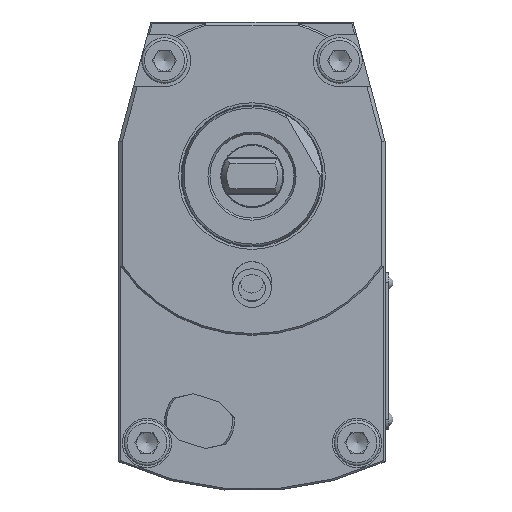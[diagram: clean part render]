
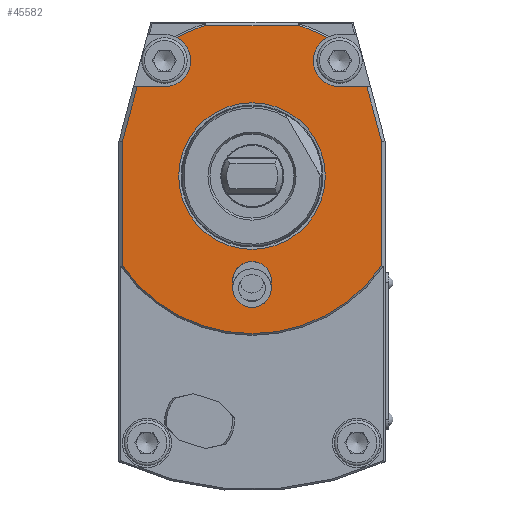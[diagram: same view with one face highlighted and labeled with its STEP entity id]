
A CAD part, left-side view. The second image highlights one B-rep face of the part: STEP entity #45582.
In plain terms, the highlighted planar face has unit normal (-1, 0, 0).
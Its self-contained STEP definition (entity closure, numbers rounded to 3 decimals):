
#19593=PLANE('',#44284);
#20015=CIRCLE('',#44283,45.);
#20016=CIRCLE('',#44285,7.5);
#20017=CIRCLE('',#44286,45.);
#20018=CIRCLE('',#44287,45.);
#20019=CIRCLE('',#44288,7.5);
#20020=CIRCLE('',#44289,20.94);
#20021=CIRCLE('',#44290,5.55);
#20022=CIRCLE('',#44291,5.55);
#20023=CIRCLE('',#44292,5.505);
#20520=ORIENTED_EDGE('',*,*,#26625,.F.);
#20521=ORIENTED_EDGE('',*,*,#26626,.F.);
#20522=ORIENTED_EDGE('',*,*,#26627,.F.);
#20523=ORIENTED_EDGE('',*,*,#26628,.F.);
#20524=ORIENTED_EDGE('',*,*,#26629,.F.);
#20525=ORIENTED_EDGE('',*,*,#26630,.F.);
#20526=ORIENTED_EDGE('',*,*,#26631,.F.);
#20527=ORIENTED_EDGE('',*,*,#26632,.F.);
#20528=ORIENTED_EDGE('',*,*,#26622,.F.);
#20529=ORIENTED_EDGE('',*,*,#26624,.F.);
#20530=ORIENTED_EDGE('',*,*,#26583,.F.);
#20531=ORIENTED_EDGE('',*,*,#26633,.F.);
#20532=ORIENTED_EDGE('',*,*,#26634,.F.);
#20533=ORIENTED_EDGE('',*,*,#26635,.F.);
#20534=ORIENTED_EDGE('',*,*,#26636,.F.);
#20535=ORIENTED_EDGE('',*,*,#26637,.F.);
#23685=VECTOR('',#29979,1.);
#23712=VECTOR('',#30050,1.);
#23714=VECTOR('',#30058,1.);
#23715=VECTOR('',#30063,1.);
#23716=VECTOR('',#30068,1.);
#23717=VECTOR('',#30069,1.);
#23718=VECTOR('',#30070,1.);
#24570=LINE('',#33152,#23685);
#24597=LINE('',#33229,#23712);
#24599=LINE('',#33236,#23714);
#24600=LINE('',#33242,#23715);
#24601=LINE('',#33248,#23716);
#24602=LINE('',#33249,#23717);
#24603=LINE('',#33250,#23718);
#25460=VERTEX_POINT('',#33149);
#25461=VERTEX_POINT('',#33151);
#25488=VERTEX_POINT('',#33226);
#25489=VERTEX_POINT('',#33228);
#25490=VERTEX_POINT('',#33234);
#25491=VERTEX_POINT('',#33235);
#25492=VERTEX_POINT('',#33237);
#25493=VERTEX_POINT('',#33239);
#25494=VERTEX_POINT('',#33241);
#25495=VERTEX_POINT('',#33243);
#25496=VERTEX_POINT('',#33245);
#25497=VERTEX_POINT('',#33247);
#25498=VERTEX_POINT('',#33251);
#25499=VERTEX_POINT('',#33253);
#25500=VERTEX_POINT('',#33254);
#25501=VERTEX_POINT('',#33256);
#26583=EDGE_CURVE('',#25460,#25461,#24570,.T.);
#26622=EDGE_CURVE('',#25488,#25489,#24597,.T.);
#26624=EDGE_CURVE('',#25461,#25488,#20015,.T.);
#26625=EDGE_CURVE('',#25490,#25491,#24599,.T.);
#26626=EDGE_CURVE('',#25492,#25490,#20016,.T.);
#26627=EDGE_CURVE('',#25493,#25492,#20017,.T.);
#26628=EDGE_CURVE('',#25494,#25493,#24600,.T.);
#26629=EDGE_CURVE('',#25495,#25494,#20018,.T.);
#26630=EDGE_CURVE('',#25496,#25495,#20019,.T.);
#26631=EDGE_CURVE('',#25497,#25496,#24601,.T.);
#26632=EDGE_CURVE('',#25489,#25497,#24602,.T.);
#26633=EDGE_CURVE('',#25491,#25460,#24603,.T.);
#26634=EDGE_CURVE('',#25498,#25498,#20020,.T.);
#26635=EDGE_CURVE('',#25499,#25500,#20021,.T.);
#26636=EDGE_CURVE('',#25501,#25499,#20022,.T.);
#26637=EDGE_CURVE('',#25500,#25501,#20023,.T.);
#28205=EDGE_LOOP('',(#20520,#20521,#20522,#20523,#20524,#20525,#20526,#20527,
#20528,#20529,#20530,#20531));
#28206=EDGE_LOOP('',(#20532));
#28207=EDGE_LOOP('',(#20533,#20534,#20535));
#29077=FACE_BOUND('',#28205,.T.);
#29078=FACE_BOUND('',#28206,.T.);
#29079=FACE_BOUND('',#28207,.T.);
#29979=DIRECTION('',(0.,0.,-35.481));
#30050=DIRECTION('',(0.,0.,35.481));
#30054=DIRECTION('',(1.,0.,0.));
#30055=DIRECTION('',(0.,-38.,-24.104));
#30056=DIRECTION('',(-1.,0.,0.));
#30057=DIRECTION('',(0.,1.,0.));
#30058=DIRECTION('',(0.,-7.812,0.));
#30059=DIRECTION('',(-1.,0.,0.));
#30060=DIRECTION('',(0.,7.5,0.));
#30061=DIRECTION('',(1.,0.,0.));
#30062=DIRECTION('',(0.,-9.434,44.));
#30063=DIRECTION('',(0.,-26.533,0.));
#30064=DIRECTION('',(1.,0.,0.));
#30065=DIRECTION('',(0.,26.757,36.181));
#30066=DIRECTION('',(-1.,0.,0.));
#30067=DIRECTION('',(0.,7.5,0.));
#30068=DIRECTION('',(0.,-7.812,0.));
#30069=DIRECTION('',(0.,-4.188,15.632));
#30070=DIRECTION('',(0.,-4.188,-15.632));
#30071=DIRECTION('',(-1.,0.,0.));
#30072=DIRECTION('',(0.,0.,20.94));
#30073=DIRECTION('',(-1.,0.,0.));
#30074=DIRECTION('',(0.,0.,5.55));
#30075=DIRECTION('',(-1.,0.,0.));
#30076=DIRECTION('',(0.,0.,5.55));
#30077=DIRECTION('',(-1.,0.,0.));
#30078=DIRECTION('',(0.,1.65,-5.252));
#33149=CARTESIAN_POINT('',(0.,-37.,9.868));
#33151=CARTESIAN_POINT('',(0.,-37.,-25.612));
#33152=CARTESIAN_POINT('',(0.,-37.,9.868));
#33226=CARTESIAN_POINT('',(0.,37.,-25.612));
#33228=CARTESIAN_POINT('',(0.,37.,9.868));
#33229=CARTESIAN_POINT('',(0.,37.,-25.612));
#33232=CARTESIAN_POINT('',(0.,0.,0.));
#33233=CARTESIAN_POINT('',(0.,32.278,31.355));
#33234=CARTESIAN_POINT('',(0.,-25.,25.5));
#33235=CARTESIAN_POINT('',(0.,-32.812,25.5));
#33236=CARTESIAN_POINT('',(0.,-25.,25.5));
#33237=CARTESIAN_POINT('',(0.,-21.406,39.583));
#33238=CARTESIAN_POINT('',(0.,-25.,33.));
#33239=CARTESIAN_POINT('',(0.,-13.266,43.));
#33240=CARTESIAN_POINT('',(0.,0.,0.));
#33241=CARTESIAN_POINT('',(0.,13.266,43.));
#33242=CARTESIAN_POINT('',(0.,13.266,43.));
#33243=CARTESIAN_POINT('',(0.,21.406,39.583));
#33244=CARTESIAN_POINT('',(0.,0.,0.));
#33245=CARTESIAN_POINT('',(0.,25.,25.5));
#33246=CARTESIAN_POINT('',(0.,25.,33.));
#33247=CARTESIAN_POINT('',(0.,32.812,25.5));
#33248=CARTESIAN_POINT('',(0.,32.812,25.5));
#33249=CARTESIAN_POINT('',(0.,37.,9.868));
#33250=CARTESIAN_POINT('',(0.,-32.812,25.5));
#33251=CARTESIAN_POINT('',(0.,0.,20.94));
#33252=CARTESIAN_POINT('',(0.,0.,0.));
#33253=CARTESIAN_POINT('',(0.,0.,-24.45));
#33254=CARTESIAN_POINT('',(0.,5.435,-31.124));
#33255=CARTESIAN_POINT('',(0.,0.,-30.));
#33256=CARTESIAN_POINT('',(0.,-5.435,-31.124));
#33257=CARTESIAN_POINT('',(0.,0.,-30.));
#33258=CARTESIAN_POINT('',(0.,0.,-32.));
#44283=AXIS2_PLACEMENT_3D('',#33232,#30054,#30055);
#44284=AXIS2_PLACEMENT_3D('',#33233,#30056,#30057);
#44285=AXIS2_PLACEMENT_3D('',#33238,#30059,#30060);
#44286=AXIS2_PLACEMENT_3D('',#33240,#30061,#30062);
#44287=AXIS2_PLACEMENT_3D('',#33244,#30064,#30065);
#44288=AXIS2_PLACEMENT_3D('',#33246,#30066,#30067);
#44289=AXIS2_PLACEMENT_3D('',#33252,#30071,#30072);
#44290=AXIS2_PLACEMENT_3D('',#33255,#30073,#30074);
#44291=AXIS2_PLACEMENT_3D('',#33257,#30075,#30076);
#44292=AXIS2_PLACEMENT_3D('',#33258,#30077,#30078);
#45582=ADVANCED_FACE('',(#29077,#29078,#29079),#19593,.T.);
